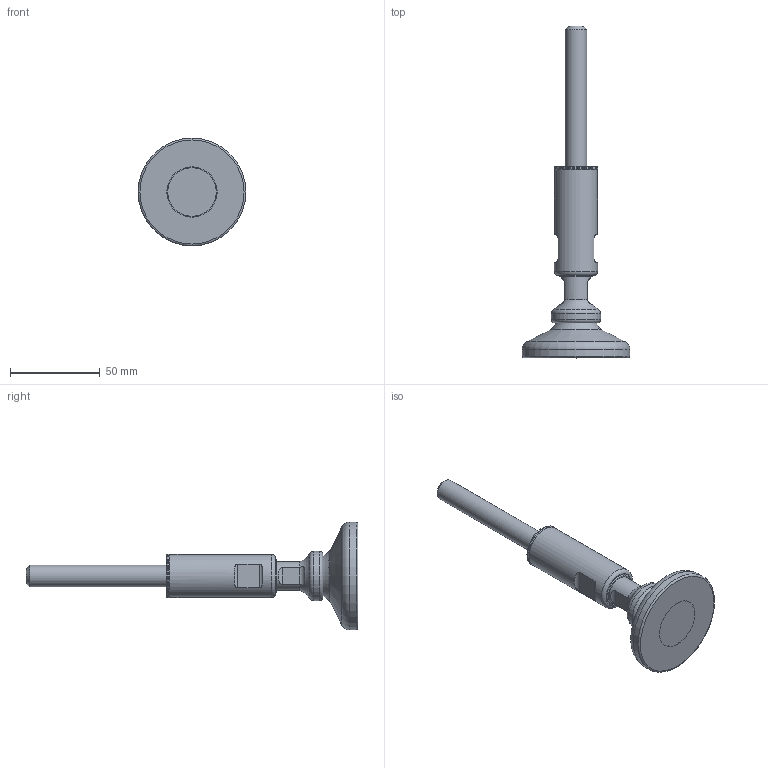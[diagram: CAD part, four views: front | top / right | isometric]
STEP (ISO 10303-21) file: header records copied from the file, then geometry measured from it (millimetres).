
FILE_DESCRIPTION(/* description */ (''),/* implementation_level */ '2;1');
FILE_NAME(/* name */ '\\NAS-MODULA\Backup-nas\Pubblica\DISEGNI 2017\13. LINEA 3A\LINEA PIEDI 3A\ASSIEMI\3D\27320-3A\27320-3A.stp',/* time_stamp */ '2018-11-09T14:29:15+01:00',/* author */ ('Martin'),/* organization */ (''),/* preprocessor_version */ 'ST-DEVELOPER v17',/* originating_system */ 'Autodesk Inventor 2018',/* authorisation */ '');
FILE_SCHEMA (('AUTOMOTIVE_DESIGN { 1 0 10303 214 3 1 1 }'));
Length unit declared in the file: millimetre
Products named in the file (7): 27320-3A; B27320-3A - D60 DAL PIENO; M12x140 - 27I12140-3A; GUARNIZIONE D60 DAL PIENO; BOCTC2460-M12-3A; GI2216-3A - D22xD16; GE2418-3A - D24.5xD18
Assembly tree (6 placements, depth 2):
  27320-3A
    B27320-3A - D60 DAL PIENO
    M12x140 - 27I12140-3A
    GUARNIZIONE D60 DAL PIENO
    BOCTC2460-M12-3A
    GI2216-3A - D22xD16
    GE2418-3A - D24.5xD18
Bounding box: 60 x 185 x 60 mm (x, y, z)
Volume: 79316.3 mm3; surface area: 31650.9 mm2
Topology: 7 solids, 7 shells, 104 faces, 303 edges, 227 vertices
Faces by surface type: cylinder 38, plane 31, torus 27, cone 7, bspline 1
Full cylindrical faces by diameter (mm): 8.5 x2, 10 x1, 10.3 x2, 12 x4, 16 x4, 16.4 x1, 18 x2, 19 x1, 19.006 x1, 22 x3, 22.006 x1, 22.4 x2, 24 x1, 24.5 x1, 27 x2, 27.5 x1, 60 x1
Entity records: 4215 total; most frequent: CARTESIAN_POINT 885, DIRECTION 762, ORIENTED_EDGE 606, AXIS2_PLACEMENT_3D 354, EDGE_CURVE 303, CIRCLE 238, VERTEX_POINT 227, EDGE_LOOP 128
